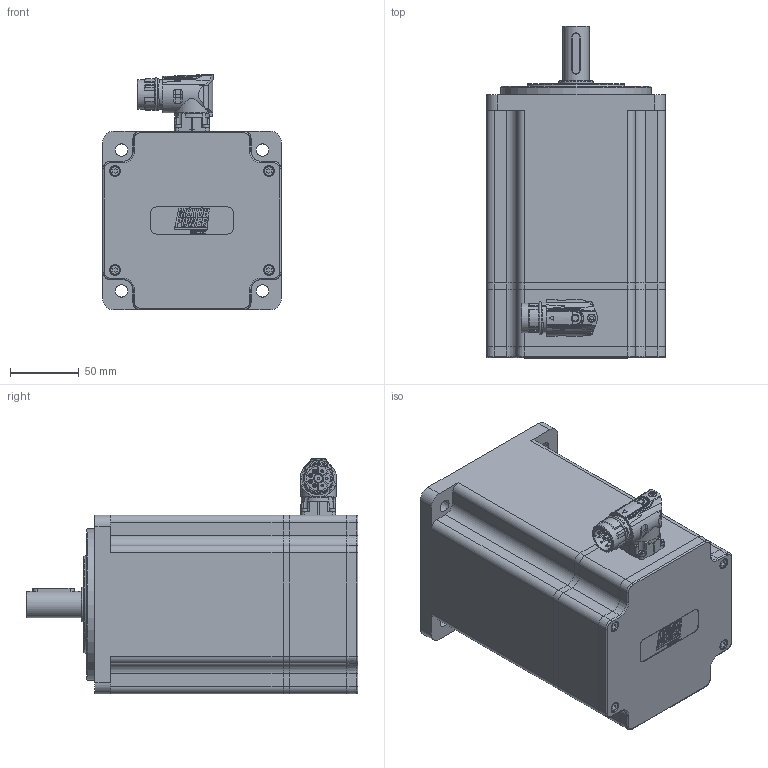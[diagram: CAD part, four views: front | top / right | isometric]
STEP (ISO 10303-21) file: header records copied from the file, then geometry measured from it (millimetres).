
FILE_DESCRIPTION(/* description */ ('Unknown'),/* implementation_level */ '2;1');
FILE_NAME(/* name */ 'TC4-130.5H.XX.X. 3.M1.0.1.C21 Q0C601',/* time_stamp */ '2026-03-05T14:10:42+01:00',/* author */ ('Unknown'),/* organization */ ('Unknown'),/* preprocessor_version */ 'ST-DEVELOPER v19.4',/* originating_system */ 'Solid Edge',/* authorisation */ 'Unknown');
FILE_SCHEMA (('AUTOMOTIVE_DESIGN {1 0 10303 214 3 1 1}'));
Products named in the file (13): Q0C601 5H M1 VUOTO; 005119002009; 005911000432; 005911000185; 003251022006; 003155002232; 005113000500; Corpo TC4-130 5H single cable; 007117000456; 005911000180; 003103040232; 003003199976; 003107003290
Assembly tree (23 placements, depth 2):
  Q0C601 5H M1 VUOTO
    005119002009
    005911000432  x6
    005911000185  x4
    003251022006
    003155002232
    005113000500
    Corpo TC4-130 5H single cable
    007117000456
    005911000180  x4
    003103040232
    003003199976
    003107003290
Bounding box: 130 x 241.5 x 171.5 mm (x, y, z)
Volume: 1114989.8 mm3; surface area: 347690.2 mm2
Topology: 25 solids, 25 shells, 1616 faces, 4063 edges, 2614 vertices
Faces by surface type: plane 771, cylinder 382, bspline 188, cone 146, torus 103, sphere 26
Full cylindrical faces by diameter (mm): 1 x4, 1.4 x4, 2 x4, 2.013 x8, 2.5 x4, 2.8 x4, 3 x8, 3.242 x26, 4 x11, 4.134 x8, 4.5 x19, 4.7 x4, 4.917 x2, 5.5 x5, 5.8 x1, 5.9 x1, 6 x4, 6.8 x1, 7 x10, 8 x14, 10 x1, 10.4 x4, 16 x1, 17.4 x1, 19 x1, 19.9 x1, 20 x2, 21.15 x2, 21.6 x1, 21.653 x1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
Entity records: 57014 total; most frequent: CARTESIAN_POINT 14633, ORIENTED_EDGE 6684, DIRECTION 6326, EDGE_CURVE 3342, AXIS2_PLACEMENT_3D 2351, VERTEX_POINT 2312, FACE_BOUND 1928, EDGE_LOOP 1908
